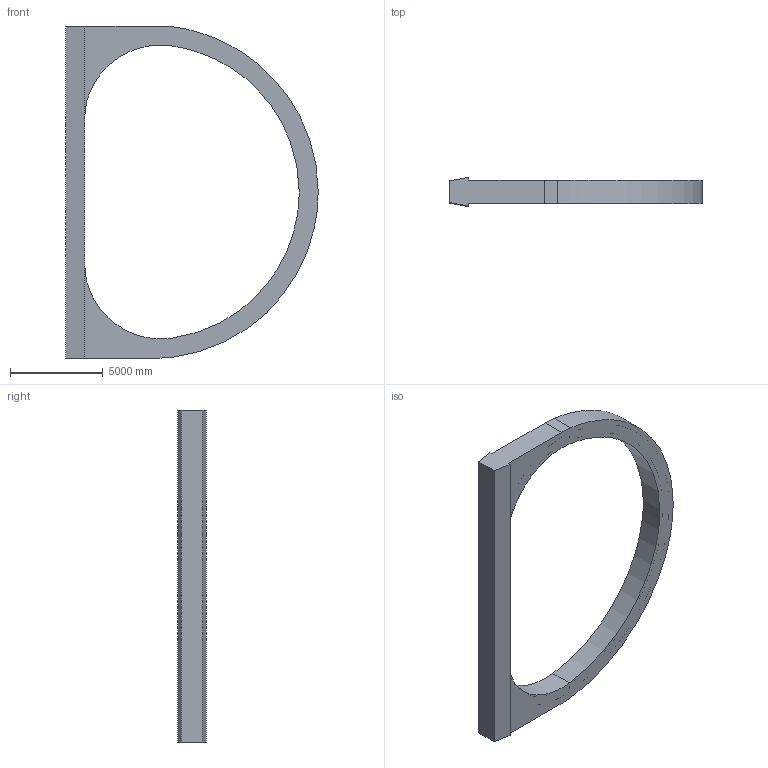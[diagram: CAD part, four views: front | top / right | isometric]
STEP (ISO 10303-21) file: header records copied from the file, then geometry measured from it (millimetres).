
FILE_DESCRIPTION(('FreeCAD Model'),'2;1');
FILE_NAME('Open CASCADE Shape Model','2026-10-11T08:18:56',('Bluemira'), ('Bluemira'),'Open CASCADE STEP processor 7.8','FreeCAD','Unknown');
FILE_SCHEMA(('AP242_MANAGED_MODEL_BASED_3D_ENGINEERING_MIM_LF. {1 0 10303 442 1 1 4 }'));
Length unit declared in the file: metre
Products named in the file (4): Unnamed; Winding_Pack_1_1; Insulation_1_1; Casing_1_1
Assembly tree (3 placements, depth 2):
  Unnamed
    Winding_Pack_1_1
    Insulation_1_1
    Casing_1_1
Bounding box: 13581.53 x 1535.13 x 17862.73 mm (x, y, z)
Volume: 76750476492.4 mm3; surface area: 850765128.6 mm2
Topology: 3 solids, 5 shells, 130 faces, 278 edges, 148 vertices
Faces by surface type: plane 72, cylinder 48, extrusion 10
Entity records: 7918 total; most frequent: CARTESIAN_POINT 2442, DIRECTION 972, ORIENTED_EDGE 556, PCURVE 556, DEFINITIONAL_REPRESENTATION 556, VECTOR 484, LINE 474, EDGE_CURVE 278
